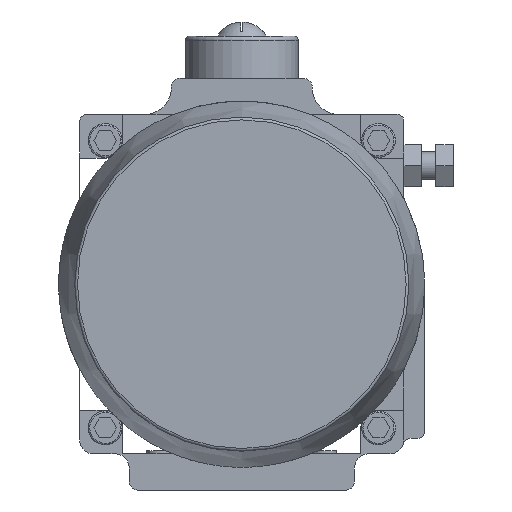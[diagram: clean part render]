
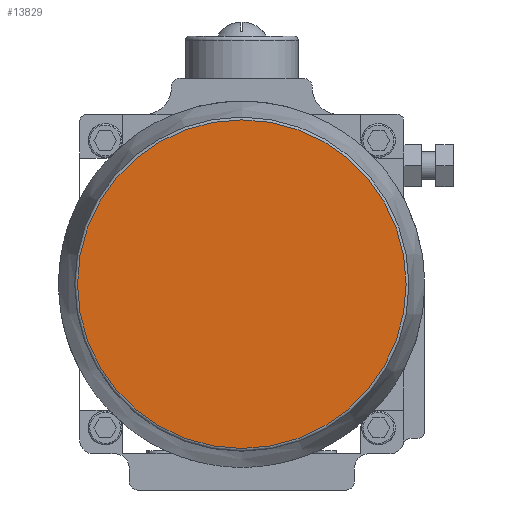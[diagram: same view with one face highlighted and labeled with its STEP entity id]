
A CAD part, front view. The second image highlights one B-rep face of the part: STEP entity #13829.
In plain terms, the highlighted planar face has unit normal (0, -1, 0).
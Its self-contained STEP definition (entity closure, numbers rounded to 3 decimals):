
#13742 = EDGE_CURVE('',#13743,#13743,#13745,.T.);
#13743 = VERTEX_POINT('',#13744);
#13744 = CARTESIAN_POINT('',(3195.678,852.706,
    -69.469));
#13745 = SURFACE_CURVE('',#13746,(#13751,#13763),.PCURVE_S1.);
#13746 = CIRCLE('',#13747,116.663);
#13747 = AXIS2_PLACEMENT_3D('',#13748,#13749,#13750);
#13748 = CARTESIAN_POINT('',(3195.678,852.706,
    -186.132));
#13749 = DIRECTION('',(0.,-1.,0.));
#13750 = DIRECTION('',(1.,0.,0.));
#13751 = PCURVE('',#13752,#13757);
#13752 = TOROIDAL_SURFACE('',#13753,116.663,2.);
#13753 = AXIS2_PLACEMENT_3D('',#13754,#13755,#13756);
#13754 = CARTESIAN_POINT('',(3195.678,854.706,
    -186.132));
#13755 = DIRECTION('',(0.,1.,0.));
#13756 = DIRECTION('',(1.,0.,0.));
#13757 = DEFINITIONAL_REPRESENTATION('',(#13758),#13762);
#13758 = LINE('',#13759,#13760);
#13759 = CARTESIAN_POINT('',(12.566,4.712));
#13760 = VECTOR('',#13761,1.);
#13761 = DIRECTION('',(-1.,0.));
#13762 = ( GEOMETRIC_REPRESENTATION_CONTEXT(2) 
PARAMETRIC_REPRESENTATION_CONTEXT() REPRESENTATION_CONTEXT('2D SPACE',''
  ) );
#13763 = PCURVE('',#13764,#13769);
#13764 = PLANE('',#13765);
#13765 = AXIS2_PLACEMENT_3D('',#13766,#13767,#13768);
#13766 = CARTESIAN_POINT('',(3195.678,852.706,
    -69.469));
#13767 = DIRECTION('',(0.,1.,0.));
#13768 = DIRECTION('',(1.,0.,0.));
#13769 = DEFINITIONAL_REPRESENTATION('',(#13770),#13778);
#13770 = ( BOUNDED_CURVE() B_SPLINE_CURVE(2,(#13771,#13772,#13773,#13774
    ,#13775,#13776,#13777),.UNSPECIFIED.,.T.,.F.) 
B_SPLINE_CURVE_WITH_KNOTS((1,2,2,2,2,1),(-2.094,0.,
    2.094,4.189,6.283,8.378),
.UNSPECIFIED.) CURVE() GEOMETRIC_REPRESENTATION_ITEM() 
RATIONAL_B_SPLINE_CURVE((1.,0.5,1.,0.5,1.,0.5,1.)) REPRESENTATION_ITEM(
  '') );
#13771 = CARTESIAN_POINT('',(116.663,116.663));
#13772 = CARTESIAN_POINT('',(116.663,-85.403));
#13773 = CARTESIAN_POINT('',(-58.331,15.63));
#13774 = CARTESIAN_POINT('',(-233.326,116.663));
#13775 = CARTESIAN_POINT('',(-58.331,217.696));
#13776 = CARTESIAN_POINT('',(116.663,318.729));
#13777 = CARTESIAN_POINT('',(116.663,116.663));
#13778 = ( GEOMETRIC_REPRESENTATION_CONTEXT(2) 
PARAMETRIC_REPRESENTATION_CONTEXT() REPRESENTATION_CONTEXT('2D SPACE',''
  ) );
#13829 = ADVANCED_FACE('',(#13830),#13764,.F.);
#13830 = FACE_BOUND('',#13831,.T.);
#13831 = EDGE_LOOP('',(#13832));
#13832 = ORIENTED_EDGE('',*,*,#13742,.T.);
